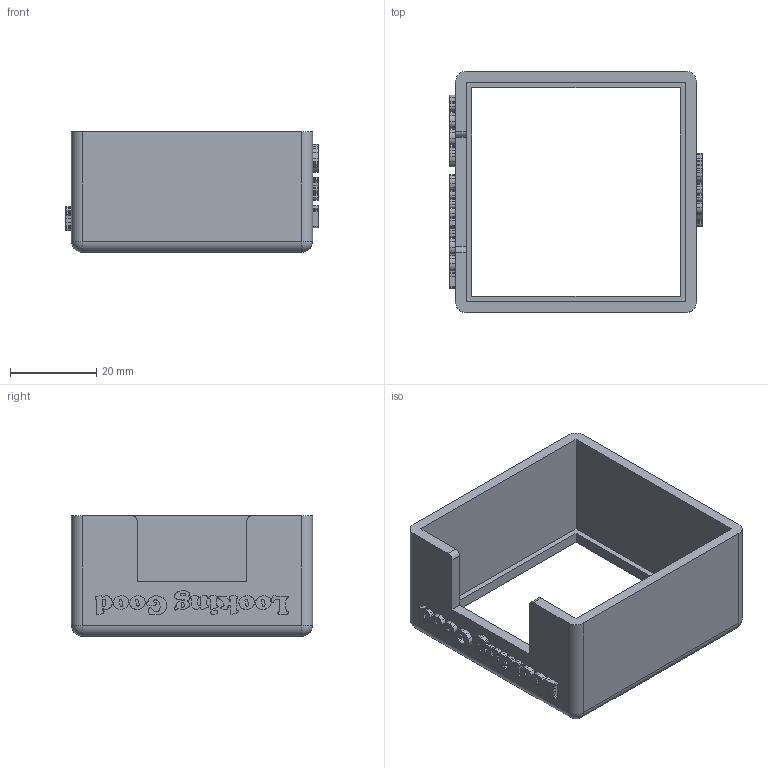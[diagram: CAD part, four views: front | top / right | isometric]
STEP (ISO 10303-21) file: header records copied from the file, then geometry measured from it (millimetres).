
FILE_DESCRIPTION(/* description */ (''),/* implementation_level */ '2;1');
FILE_NAME(/* name */ 'G:/3D Prints/Wyze Camera Cover v1.step',/* time_stamp */ '2020-10-22T16:12:34-04:00',/* author */ (''),/* organization */ (''),/* preprocessor_version */ 'ST-DEVELOPER v18.1',/* originating_system */ 'Autodesk Translation Framework v9.3.0.1241',/* authorisation */ '');
FILE_SCHEMA (('AUTOMOTIVE_DESIGN { 1 0 10303 214 3 1 1 }'));
Length unit declared in the file: inch
Products named in the file (1): Wyze Camera Cover
Bounding box: 58.42 x 55.88 x 27.94 mm (x, y, z)
Volume: 14649.6 mm3; surface area: 12947.1 mm2
Topology: 1 solids, 1 shells, 838 faces, 2385 edges, 1586 vertices
Faces by surface type: bspline 744, plane 80, cylinder 10, sphere 4
Entity records: 34152 total; most frequent: CARTESIAN_POINT 17458, ORIENTED_EDGE 4770, EDGE_CURVE 2385, VERTEX_POINT 1586, B_SPLINE_CURVE_WITH_KNOTS 1488, DIRECTION 1107, EDGE_LOOP 877, LINE 877
